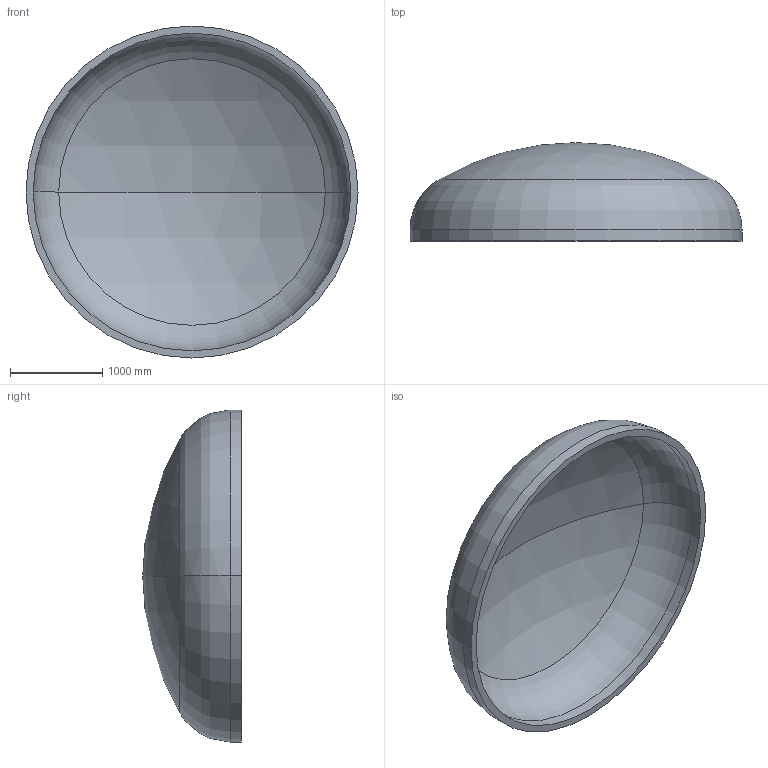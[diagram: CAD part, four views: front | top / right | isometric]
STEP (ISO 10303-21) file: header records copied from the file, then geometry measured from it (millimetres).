
FILE_DESCRIPTION (( 'STEP AP203' ), '1' );
FILE_NAME ('DIN 28013 Korbbogenform_-_Boden DIN 28013 - 3600 x 120 - I - s=78.step', '2016-07-01T20:41:25', ( '' ), ( '' ), 'SwSTEP 2.0', 'SolidWorks 2013', '' );
FILE_SCHEMA (( 'CONFIG_CONTROL_DESIGN' ));
Length unit declared in the file: millimetre
Products named in the file (1): DIN 28013 Korbbogenform_-_Boden DIN 28013 - 3600 x 120 - I - s=78
Bounding box: 3600 x 1067.1 x 3600 mm (x, y, z)
Volume: 1172509800.5 mm3; surface area: 30940131.6 mm2
Topology: 1 solids, 1 shells, 13 faces, 24 edges, 14 vertices
Faces by surface type: torus 4, cylinder 4, sphere 4, plane 1
Entity records: 407 total; most frequent: DIRECTION 72, CARTESIAN_POINT 52, ORIENTED_EDGE 48, AXIS2_PLACEMENT_3D 34, EDGE_CURVE 24, CIRCLE 20, EDGE_LOOP 14, VERTEX_POINT 14
